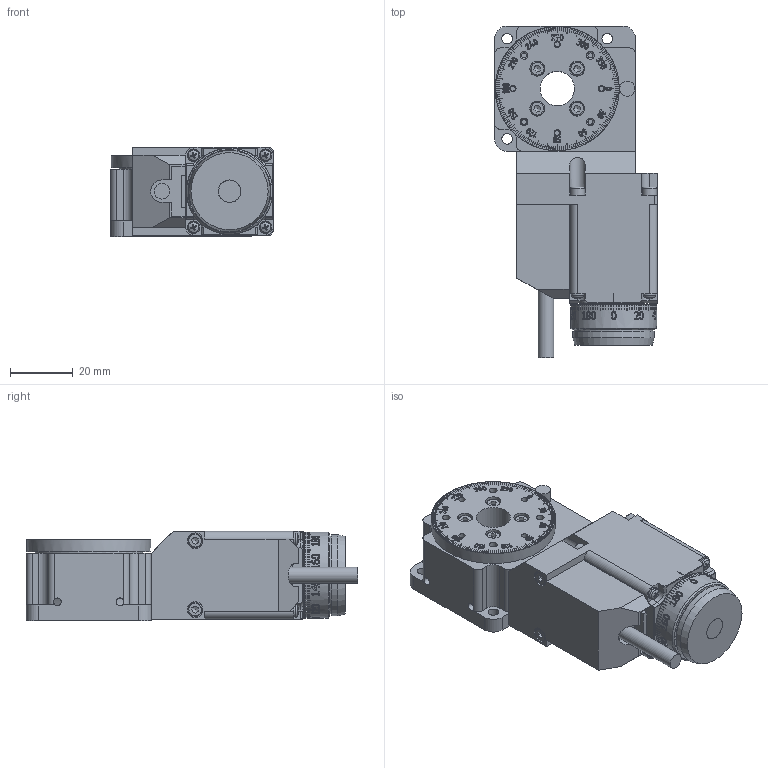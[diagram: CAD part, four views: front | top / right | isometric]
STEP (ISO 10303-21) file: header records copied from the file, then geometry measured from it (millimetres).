
FILE_DESCRIPTION(/* description */ (''),/* implementation_level */ '2;1');
FILE_NAME(/* name */ 'C:\Users\dsgn39\Desktop\Internetui\8MR174E-11-28S\8MR174-11-28S.stp',/* time_stamp */ '2017-03-17T09:45:21+02:00',/* author */ ('dsgn39'),/* organization */ (''),/* preprocessor_version */ 'ST-DEVELOPER v15.2',/* originating_system */ 'Autodesk Inventor 2014',/* authorisation */ '');
FILE_SCHEMA (('AUTOMOTIVE_DESIGN { 1 0 10303 214 3 1 1 }'));
Products named in the file (2): Part91; Assembly15
Bounding box: 52 x 106 x 28.5 mm (x, y, z)
Volume: 98537.2 mm3; surface area: 23564.5 mm2
Topology: 1 solids, 20 shells, 2659 faces, 7380 edges, 4887 vertices
Faces by surface type: plane 1575, bspline 657, cylinder 284, cone 79, torus 52, sphere 12
Full cylindrical faces by diameter (mm): 1.6 x8, 1.783 x4, 2 x4, 2.013 x8, 2.256 x3, 2.459 x6, 2.5 x9, 2.621 x2, 2.8 x4, 3 x9, 3.4 x3, 4.5 x9, 4.8 x5, 4.9 x3, 5 x4, 7 x2, 7.2 x1, 11 x1, 12 x1, 22 x1, 25 x2, 26 x1, 27.5 x1, 34.5 x1, 39.6 x1
Entity records: 150084 total; most frequent: CARTESIAN_POINT 87834, ORIENTED_EDGE 14276, DIRECTION 10360, EDGE_CURVE 7138, VERTEX_POINT 4818, LINE 4100, VECTOR 4100, AXIS2_PLACEMENT_3D 3130
